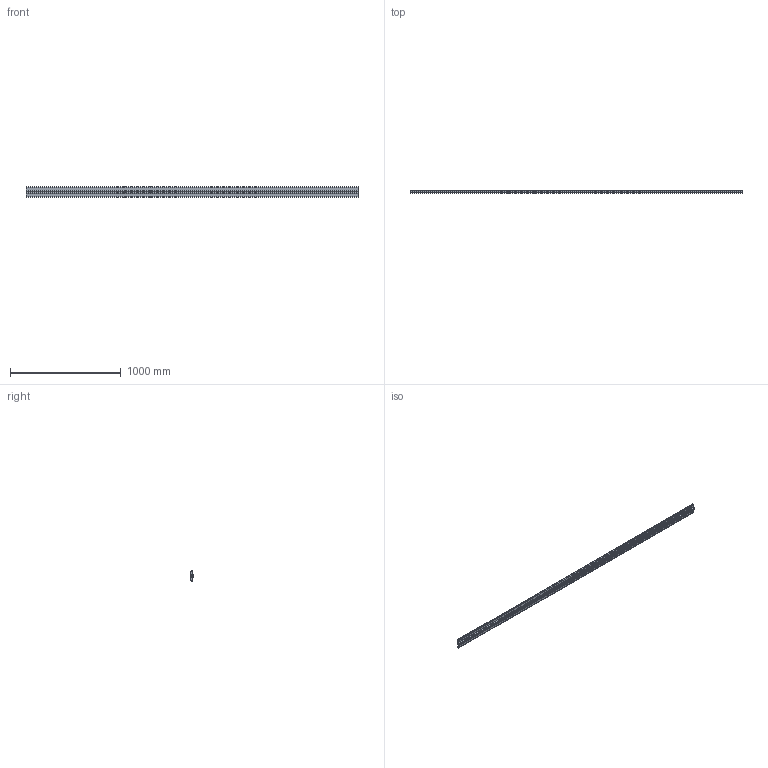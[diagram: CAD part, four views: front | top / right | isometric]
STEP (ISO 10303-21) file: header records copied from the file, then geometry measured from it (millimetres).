
FILE_DESCRIPTION(('STEP AP214'),'1');
FILE_NAME('P35902_01','2017-03-02T07:49:29',('dentellad'),(' '),'Spatial InterOp 3D',' ',' ');
FILE_SCHEMA(('automotive_design'));
Length unit declared in the file: millimetre
Products named in the file (3): 1; 2; 3
Bounding box: 3000 x 22.5 x 92 mm (x, y, z)
Volume: 3336715.8 mm3; surface area: 1414410.1 mm2
Topology: 3 solids, 3 shells, 109 faces, 309 edges, 206 vertices
Faces by surface type: plane 61, cylinder 40, extrusion 8
Entity records: 6400 total; most frequent: CARTESIAN_POINT 1029, ORIENTED_EDGE 618, DIRECTION 589, STYLED_ITEM 421, PRESENTATION_STYLE_ASSIGNMENT 421, COLOUR_RGB 421, EDGE_CURVE 309, CURVE_STYLE 309
